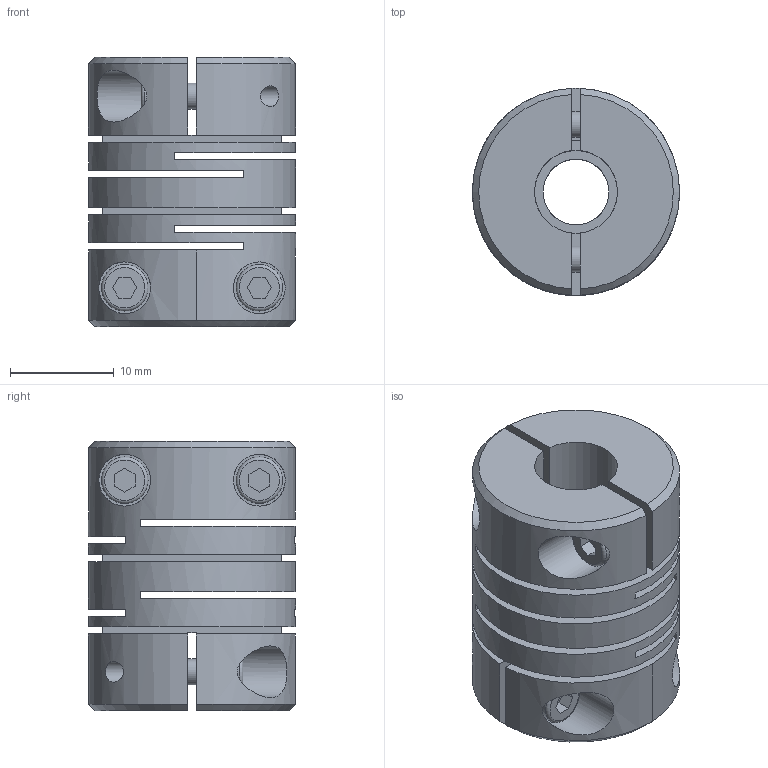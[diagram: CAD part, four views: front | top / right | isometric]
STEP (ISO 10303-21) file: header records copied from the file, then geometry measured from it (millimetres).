
FILE_DESCRIPTION (( 'STEP AP214' ), '1' );
FILE_NAME ('2246-20-B8-1_4-NI.step', '2022-05-27T09:30:56', ( '' ), ( '' ), 'SwSTEP 2.0', 'SolidWorks 2019', '' );
FILE_SCHEMA (( 'AUTOMOTIVE_DESIGN' ));
Length unit declared in the file: millimetre
Products named in the file (1): 2246-20-B8-1_4-NI
Bounding box: 20 x 20 x 26 mm (x, y, z)
Volume: 5768.7 mm3; surface area: 5996.1 mm2
Topology: 1 solids, 1 shells, 123 faces, 308 edges, 208 vertices
Faces by surface type: plane 79, cylinder 32, cone 8, torus 4
Full cylindrical faces by diameter (mm): 2.01 x4, 2.5 x4, 2.7 x4, 4.5 x4, 5 x4, 6.35 x3, 8 x3, 20 x1
Entity records: 4264 total; most frequent: CARTESIAN_POINT 939, DIRECTION 552, ORIENTED_EDGE 476, EDGE_CURVE 238, AXIS2_PLACEMENT_3D 207, EDGE_LOOP 200, VERTEX_POINT 178, FACE_OUTER_BOUND 153
